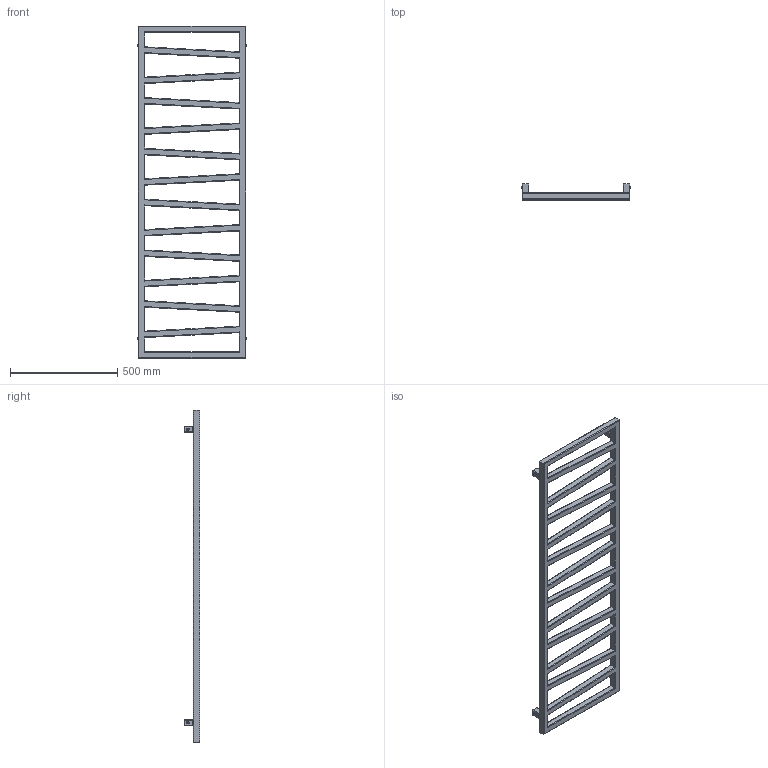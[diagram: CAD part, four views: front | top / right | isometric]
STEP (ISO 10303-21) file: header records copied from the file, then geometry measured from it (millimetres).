
FILE_DESCRIPTION((''),'2;1');
FILE_NAME('Z:\R\G\P\RGP106 - Grzejnik Zigzag\Work\Inventor\Marketing\Katalog 2012\Modele AutoCAD\ZIG-1545-500-SX.stp','2012-07-12T15:35:02',('KurKa'),(''),'Autodesk Inventor 2012','Autodesk Inventor 2012','');
FILE_SCHEMA(('AUTOMOTIVE_DESIGN { 1 0 10303 214 1 1 1 1 }'));
Length unit declared in the file: millimetre
Products named in the file (3): ZIG-1545-500-SX; MMT42_marketing
Assembly tree (5 placements, depth 2):
  ZIG-1545-500-SX
    ZIG-1545-500-SX
    MMT42_marketing  x4
Bounding box: 506 x 72 x 1545 mm (x, y, z)
Volume: 8388985.3 mm3; surface area: 1073945.8 mm2
Topology: 5 solids, 5 shells, 359 faces, 843 edges, 509 vertices
Faces by surface type: cylinder 163, plane 161, cone 24, torus 11
Full cylindrical faces by diameter (mm): 4.509 x4, 11.445 x1, 12 x4, 18.631 x2
Entity records: 6321 total; most frequent: DIRECTION 1122, CARTESIAN_POINT 1072, ORIENTED_EDGE 1008, EDGE_CURVE 504, AXIS2_PLACEMENT_3D 390, VECTOR 342, LINE 342, VERTEX_POINT 300
